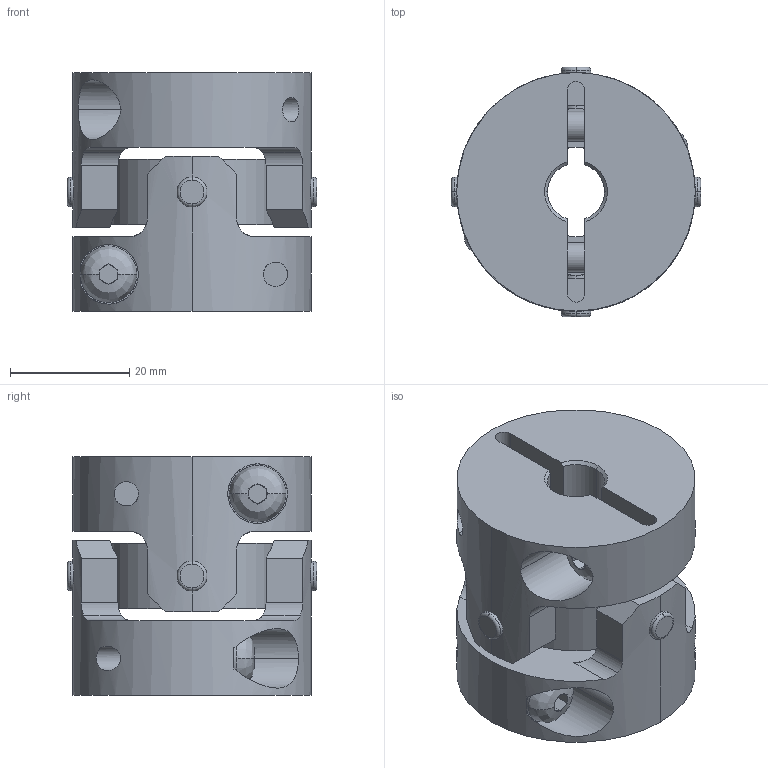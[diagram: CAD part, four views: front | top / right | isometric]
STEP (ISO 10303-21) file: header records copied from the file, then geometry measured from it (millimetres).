
FILE_DESCRIPTION((''),'2;1');
FILE_NAME('UA-40C-9.525×17.stp','2013-11-19T08:17:16',(''),(''),'AutoCAD STEP 2000i','AutoCAD 2000i',', , ');
FILE_SCHEMA(('CONFIG_CONTROL_DESIGN'));
Length unit declared in the file: millimetre
Products named in the file (7): UA-40C-8×18; 忣兜1; UA-4002-D18; BTN-M5; UA-4002-D08-1; UA-4002-D08; UA40-SEN
Assembly tree (8 placements, depth 3):
  UA-40C-8×18
    忣兜1
    UA-4002-D18
      BTN-M5
    UA-4002-D08-1
      BTN-M5
    UA-4002-D08
      BTN-M5
    UA40-SEN
Bounding box: 41.81 x 41.81 x 40 mm (x, y, z)
Volume: 33562.1 mm3; surface area: 15249.4 mm2
Topology: 1 solids, 1 shells, 252 faces, 654 edges, 412 vertices
Faces by surface type: plane 124, cylinder 96, cone 16, bspline 8, torus 8
Entity records: 9705 total; most frequent: CARTESIAN_POINT 3363, DIRECTION 1308, ORIENTED_EDGE 1308, EDGE_CURVE 654, AXIS2_PLACEMENT_3D 505, VERTEX_POINT 412, VECTOR 298, LINE 298
